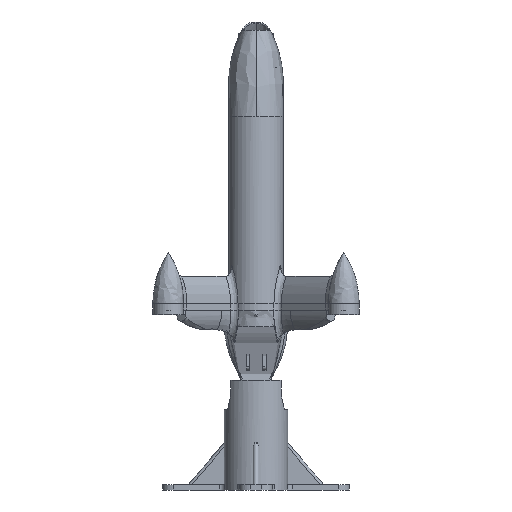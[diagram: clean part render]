
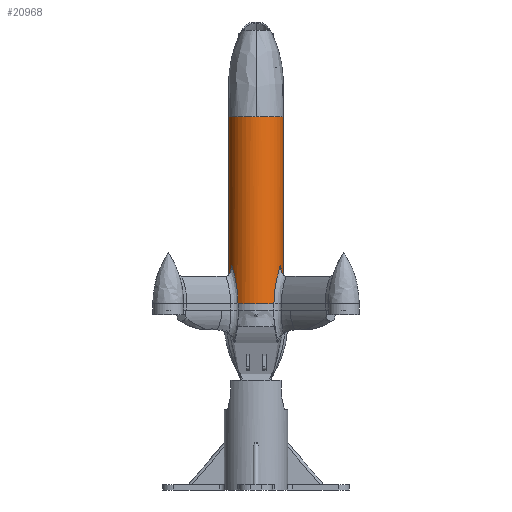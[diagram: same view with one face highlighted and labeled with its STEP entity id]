
A CAD part, front view. The second image highlights one B-rep face of the part: STEP entity #20968.
In plain terms, the highlighted cylindrical face has radius 25 mm (diameter 50 mm), a partial arc.
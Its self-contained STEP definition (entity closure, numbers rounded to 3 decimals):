
#1285=FACE_OUTER_BOUND('',#2442,.T.);
#2442=EDGE_LOOP('',(#15071,#15072,#15073,#15074,#15075,#15076,#15077,#15078,
#15079,#15080,#15081,#15082,#15083));
#3571=B_SPLINE_CURVE_WITH_KNOTS('',3,(#32182,#32183,#32184,#32185,#32186,
#32187,#32188,#32189,#32190,#32191,#32192,#32193,#32194,#32195,#32196,#32197),
 .UNSPECIFIED.,.F.,.F.,(4,3,3,3,3,4),(-0.199,-0.172,
-0.103,-0.069,-0.034,0.),
 .UNSPECIFIED.);
#3671=B_SPLINE_CURVE_WITH_KNOTS('',3,(#36998,#36999,#37000,#37001,#37002,
#37003,#37004,#37005,#37006,#37007,#37008,#37009,#37010,#37011,#37012,#37013),
 .UNSPECIFIED.,.F.,.F.,(4,3,3,3,3,4),(-0.199,-0.172,
-0.103,-0.069,-0.034,0.),
 .UNSPECIFIED.);
#3844=B_SPLINE_CURVE_WITH_KNOTS('',3,(#42515,#42516,#42517,#42518),
 .UNSPECIFIED.,.F.,.F.,(4,4),(2.53,2.981),
 .UNSPECIFIED.);
#3846=B_SPLINE_CURVE_WITH_KNOTS('',3,(#42531,#42532,#42533,#42534,#42535,
#42536),.UNSPECIFIED.,.F.,.F.,(4,1,1,4),(-6.231,-5.174,
-4.116,-2.981),.UNSPECIFIED.);
#3848=B_SPLINE_CURVE_WITH_KNOTS('',3,(#42588,#42589,#42590,#42591),
 .UNSPECIFIED.,.F.,.F.,(4,4),(3.752,4.202),
 .UNSPECIFIED.);
#3849=B_SPLINE_CURVE_WITH_KNOTS('',3,(#42592,#42593,#42594,#42595,#42596,
#42597),.UNSPECIFIED.,.F.,.F.,(4,1,1,4),(-3.752,-3.145,
-2.088,-0.502),.UNSPECIFIED.);
#3851=B_SPLINE_CURVE_WITH_KNOTS('',3,(#42605,#42606,#42607,#42608,#42609,
#42610),.UNSPECIFIED.,.F.,.F.,(4,1,1,4),(-4.254,-2.11,
-1.574,-0.502),.UNSPECIFIED.);
#3852=B_SPLINE_CURVE_WITH_KNOTS('',3,(#42611,#42612,#42613,#42614,#42615,
#42616),.UNSPECIFIED.,.F.,.F.,(4,1,1,4),(-13.109,-12.036,
-10.964,-9.356),.UNSPECIFIED.);
#4613=LINE('',#40188,#6029);
#4630=LINE('',#40404,#6046);
#6029=VECTOR('',#24692,10.);
#6046=VECTOR('',#24777,10.);
#7324=CIRCLE('',#22279,25.);
#7327=CIRCLE('',#22282,25.);
#7330=CIRCLE('',#22285,25.);
#8332=VERTEX_POINT('',#32179);
#8333=VERTEX_POINT('',#32181);
#8502=VERTEX_POINT('',#36993);
#8530=VERTEX_POINT('',#39886);
#8531=VERTEX_POINT('',#39888);
#8539=VERTEX_POINT('',#39922);
#8540=VERTEX_POINT('',#39933);
#8548=VERTEX_POINT('',#39970);
#8549=VERTEX_POINT('',#39978);
#8690=VERTEX_POINT('',#42513);
#8691=VERTEX_POINT('',#42514);
#8692=VERTEX_POINT('',#42573);
#8694=VERTEX_POINT('',#42587);
#10592=EDGE_CURVE('',#8333,#8332,#3571,.T.);
#10820=EDGE_CURVE('',#8502,#8332,#3671,.T.);
#10862=EDGE_CURVE('',#8531,#8530,#7324,.T.);
#10871=EDGE_CURVE('',#8540,#8539,#7327,.T.);
#10880=EDGE_CURVE('',#8549,#8548,#7330,.T.);
#10943=EDGE_CURVE('',#8549,#8502,#4613,.T.);
#10979=EDGE_CURVE('',#8530,#8333,#4630,.T.);
#11112=EDGE_CURVE('',#8690,#8691,#3844,.T.);
#11114=EDGE_CURVE('',#8540,#8691,#3846,.T.);
#11116=EDGE_CURVE('',#8694,#8692,#3848,.T.);
#11117=EDGE_CURVE('',#8694,#8539,#3849,.T.);
#11119=EDGE_CURVE('',#8690,#8548,#3851,.T.);
#11120=EDGE_CURVE('',#8531,#8692,#3852,.T.);
#15071=ORIENTED_EDGE('',*,*,#10943,.F.);
#15072=ORIENTED_EDGE('',*,*,#10880,.T.);
#15073=ORIENTED_EDGE('',*,*,#11119,.F.);
#15074=ORIENTED_EDGE('',*,*,#11112,.T.);
#15075=ORIENTED_EDGE('',*,*,#11114,.F.);
#15076=ORIENTED_EDGE('',*,*,#10871,.T.);
#15077=ORIENTED_EDGE('',*,*,#11117,.F.);
#15078=ORIENTED_EDGE('',*,*,#11116,.T.);
#15079=ORIENTED_EDGE('',*,*,#11120,.F.);
#15080=ORIENTED_EDGE('',*,*,#10862,.T.);
#15081=ORIENTED_EDGE('',*,*,#10979,.T.);
#15082=ORIENTED_EDGE('',*,*,#10592,.T.);
#15083=ORIENTED_EDGE('',*,*,#10820,.F.);
#20367=CYLINDRICAL_SURFACE('',#22383,25.);
#20968=ADVANCED_FACE('',(#1285),#20367,.T.);
#22279=AXIS2_PLACEMENT_3D('',#39889,#24597,#24598);
#22282=AXIS2_PLACEMENT_3D('',#39934,#24605,#24606);
#22285=AXIS2_PLACEMENT_3D('',#39979,#24613,#24614);
#22383=AXIS2_PLACEMENT_3D('',#42604,#24845,#24846);
#24597=DIRECTION('center_axis',(0.,0.,1.));
#24598=DIRECTION('ref_axis',(1.,0.,0.));
#24605=DIRECTION('center_axis',(0.,0.,1.));
#24606=DIRECTION('ref_axis',(1.,0.,0.));
#24613=DIRECTION('center_axis',(0.,0.,1.));
#24614=DIRECTION('ref_axis',(1.,0.,0.));
#24692=DIRECTION('',(0.,0.,1.));
#24777=DIRECTION('',(0.,0.,1.));
#24845=DIRECTION('center_axis',(0.,0.,
-1.));
#24846=DIRECTION('ref_axis',(1.,0.,0.));
#32179=CARTESIAN_POINT('',(0.,-37.5,160.164));
#32181=CARTESIAN_POINT('',(25.,-12.5,160.164));
#32182=CARTESIAN_POINT('Ctrl Pts',(25.001,-12.501,160.164));
#32183=CARTESIAN_POINT('Ctrl Pts',(25.002,-14.306,160.164));
#32184=CARTESIAN_POINT('Ctrl Pts',(24.804,-16.11,160.164));
#32185=CARTESIAN_POINT('Ctrl Pts',(24.418,-17.874,160.164));
#32186=CARTESIAN_POINT('Ctrl Pts',(23.451,-22.284,160.164));
#32187=CARTESIAN_POINT('Ctrl Pts',(21.253,-26.414,160.164));
#32188=CARTESIAN_POINT('Ctrl Pts',(18.151,-29.692,160.164));
#32189=CARTESIAN_POINT('Ctrl Pts',(16.6,-31.331,160.164));
#32190=CARTESIAN_POINT('Ctrl Pts',(14.823,-32.757,160.164));
#32191=CARTESIAN_POINT('Ctrl Pts',(12.888,-33.921,160.164));
#32192=CARTESIAN_POINT('Ctrl Pts',(10.954,-35.084,160.164));
#32193=CARTESIAN_POINT('Ctrl Pts',(8.863,-35.985,160.164));
#32194=CARTESIAN_POINT('Ctrl Pts',(6.688,-36.589,160.164));
#32195=CARTESIAN_POINT('Ctrl Pts',(4.514,-37.193,160.164));
#32196=CARTESIAN_POINT('Ctrl Pts',(2.257,-37.5,160.164));
#32197=CARTESIAN_POINT('Ctrl Pts',(0.,-37.5,
160.164));
#36993=CARTESIAN_POINT('',(-25.,-12.5,160.164));
#36998=CARTESIAN_POINT('Ctrl Pts',(-25.001,-12.501,
160.164));
#36999=CARTESIAN_POINT('Ctrl Pts',(-25.002,-14.306,160.164));
#37000=CARTESIAN_POINT('Ctrl Pts',(-24.804,-16.11,
160.164));
#37001=CARTESIAN_POINT('Ctrl Pts',(-24.418,-17.874,
160.164));
#37002=CARTESIAN_POINT('Ctrl Pts',(-23.451,-22.284,
160.164));
#37003=CARTESIAN_POINT('Ctrl Pts',(-21.253,-26.414,
160.164));
#37004=CARTESIAN_POINT('Ctrl Pts',(-18.151,-29.692,
160.164));
#37005=CARTESIAN_POINT('Ctrl Pts',(-16.6,-31.331,
160.164));
#37006=CARTESIAN_POINT('Ctrl Pts',(-14.823,-32.757,
160.164));
#37007=CARTESIAN_POINT('Ctrl Pts',(-12.888,-33.921,
160.164));
#37008=CARTESIAN_POINT('Ctrl Pts',(-10.954,-35.084,160.164));
#37009=CARTESIAN_POINT('Ctrl Pts',(-8.863,-35.985,160.164));
#37010=CARTESIAN_POINT('Ctrl Pts',(-6.688,-36.589,
160.164));
#37011=CARTESIAN_POINT('Ctrl Pts',(-4.514,-37.193,160.164));
#37012=CARTESIAN_POINT('Ctrl Pts',(-2.257,-37.5,
160.164));
#37013=CARTESIAN_POINT('Ctrl Pts',(0.,-37.5,
160.164));
#39886=CARTESIAN_POINT('',(25.,-12.5,-10.));
#39888=CARTESIAN_POINT('',(24.951,-14.07,-10.));
#39889=CARTESIAN_POINT('Origin',(0.,-12.5,-10.));
#39922=CARTESIAN_POINT('',(16.358,-31.405,-10.));
#39933=CARTESIAN_POINT('',(-16.358,-31.405,-10.));
#39934=CARTESIAN_POINT('Origin',(0.,-12.5,-10.));
#39970=CARTESIAN_POINT('',(-24.951,-14.07,-10.));
#39978=CARTESIAN_POINT('',(-25.,-12.5,-10.));
#39979=CARTESIAN_POINT('Origin',(0.,-12.5,-10.));
#40188=CARTESIAN_POINT('',(-25.,-12.5,130.));
#40404=CARTESIAN_POINT('',(25.,-12.5,130.));
#42513=CARTESIAN_POINT('',(-22.101,-24.185,24.653));
#42514=CARTESIAN_POINT('',(-21.045,-25.994,20.923));
#42515=CARTESIAN_POINT('Ctrl Pts',(-22.101,-24.185,24.653));
#42516=CARTESIAN_POINT('Ctrl Pts',(-21.754,-24.842,
23.446));
#42517=CARTESIAN_POINT('Ctrl Pts',(-21.4,-25.443,
22.201));
#42518=CARTESIAN_POINT('Ctrl Pts',(-21.048,-25.994,
20.923));
#42531=CARTESIAN_POINT('Ctrl Pts',(-16.358,-31.405,
-10.));
#42532=CARTESIAN_POINT('Ctrl Pts',(-16.358,-31.405,
-6.476));
#42533=CARTESIAN_POINT('Ctrl Pts',(-16.76,-31.07,
0.576));
#42534=CARTESIAN_POINT('Ctrl Pts',(-18.466,-29.442,11.071));
#42535=CARTESIAN_POINT('Ctrl Pts',(-20.16,-27.384,
17.699));
#42536=CARTESIAN_POINT('Ctrl Pts',(-21.048,-25.994,
20.923));
#42573=CARTESIAN_POINT('',(22.101,-24.185,24.653));
#42587=CARTESIAN_POINT('',(21.045,-25.994,20.923));
#42588=CARTESIAN_POINT('Ctrl Pts',(21.047,-25.994,20.923));
#42589=CARTESIAN_POINT('Ctrl Pts',(21.399,-25.443,22.201));
#42590=CARTESIAN_POINT('Ctrl Pts',(21.754,-24.841,23.446));
#42591=CARTESIAN_POINT('Ctrl Pts',(22.101,-24.185,24.653));
#42592=CARTESIAN_POINT('Ctrl Pts',(21.047,-25.994,20.923));
#42593=CARTESIAN_POINT('Ctrl Pts',(20.57,-26.738,19.199));
#42594=CARTESIAN_POINT('Ctrl Pts',(19.274,-28.521,14.308));
#42595=CARTESIAN_POINT('Ctrl Pts',(17.123,-30.79,4.098));
#42596=CARTESIAN_POINT('Ctrl Pts',(16.358,-31.405,-4.714));
#42597=CARTESIAN_POINT('Ctrl Pts',(16.358,-31.405,-10.));
#42604=CARTESIAN_POINT('Origin',(0.,-12.5,140.164));
#42605=CARTESIAN_POINT('Ctrl Pts',(-22.101,-24.185,
24.653));
#42606=CARTESIAN_POINT('Ctrl Pts',(-23.756,-21.056,
18.904));
#42607=CARTESIAN_POINT('Ctrl Pts',(-24.583,-17.481,
10.962));
#42608=CARTESIAN_POINT('Ctrl Pts',(-24.927,-14.615,
-1.071));
#42609=CARTESIAN_POINT('Ctrl Pts',(-24.951,-14.07,-6.427));
#42610=CARTESIAN_POINT('Ctrl Pts',(-24.951,-14.07,-10.));
#42611=CARTESIAN_POINT('Ctrl Pts',(24.951,-14.07,-10.));
#42612=CARTESIAN_POINT('Ctrl Pts',(24.951,-14.07,-6.427));
#42613=CARTESIAN_POINT('Ctrl Pts',(24.92,-14.8,0.716));
#42614=CARTESIAN_POINT('Ctrl Pts',(24.479,-18.184,12.589));
#42615=CARTESIAN_POINT('Ctrl Pts',(23.342,-21.838,20.342));
#42616=CARTESIAN_POINT('Ctrl Pts',(22.101,-24.185,24.653));
